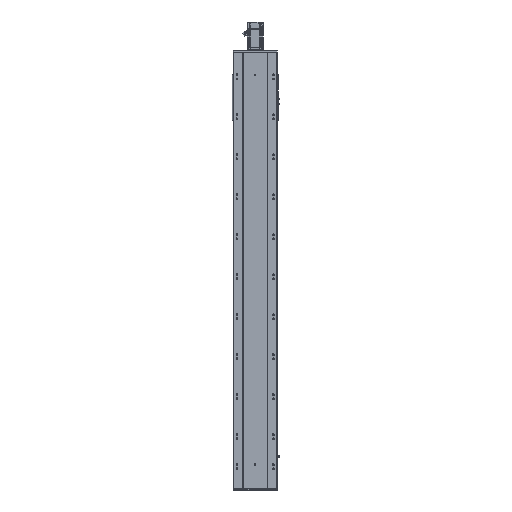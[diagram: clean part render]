
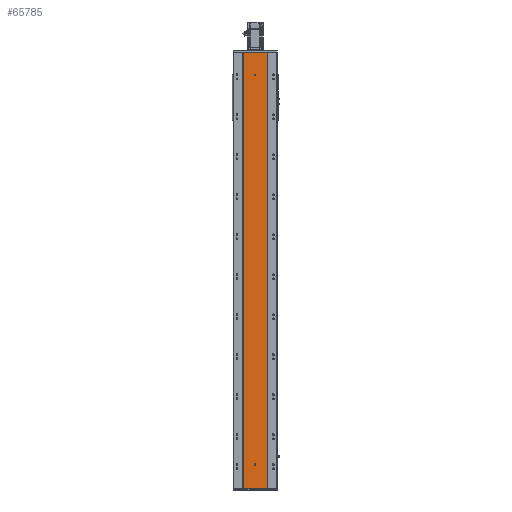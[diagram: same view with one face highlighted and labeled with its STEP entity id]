
A CAD part, front view. The second image highlights one B-rep face of the part: STEP entity #65785.
In plain terms, the highlighted planar face has unit normal (0, -1, 0).
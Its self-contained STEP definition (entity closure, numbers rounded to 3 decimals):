
#1428 = DIRECTION ( 'NONE',  ( 0., 0., 1. ) ) ;
#1861 = VECTOR ( 'NONE', #75392, 1000. ) ;
#2997 = VERTEX_POINT ( 'NONE', #39646 ) ;
#3594 = DIRECTION ( 'NONE',  ( 0., -1., 0. ) ) ;
#3933 = ORIENTED_EDGE ( 'NONE', *, *, #15065, .T. ) ;
#6039 = CARTESIAN_POINT ( 'NONE',  ( 0., 0., 116.5 ) ) ;
#6227 = AXIS2_PLACEMENT_3D ( 'NONE', #15155, #9334, #57648 ) ;
#7191 = VERTEX_POINT ( 'NONE', #40193 ) ;
#8694 = VERTEX_POINT ( 'NONE', #42916 ) ;
#9132 = ORIENTED_EDGE ( 'NONE', *, *, #59147, .F. ) ;
#9334 = DIRECTION ( 'NONE',  ( 0., -1., 0. ) ) ;
#10621 = ORIENTED_EDGE ( 'NONE', *, *, #42103, .F. ) ;
#11654 = ORIENTED_EDGE ( 'NONE', *, *, #57369, .T. ) ;
#11755 = CARTESIAN_POINT ( 'NONE',  ( -4., 0., 119.5 ) ) ;
#12993 = VERTEX_POINT ( 'NONE', #11755 ) ;
#14307 = DIRECTION ( 'NONE',  ( 1., 0., 0. ) ) ;
#14402 = DIRECTION ( 'NONE',  ( 0., 0., -1. ) ) ;
#15065 = EDGE_CURVE ( 'NONE', #38851, #29884, #60746, .T. ) ;
#15155 = CARTESIAN_POINT ( 'NONE',  ( 0., 0., 2068. ) ) ;
#16479 = EDGE_LOOP ( 'NONE', ( #11654, #62007, #49797, #3933 ) ) ;
#16772 = VECTOR ( 'NONE', #66358, 1000. ) ;
#17611 = DIRECTION ( 'NONE',  ( 0., -1., 0. ) ) ;
#18144 = CARTESIAN_POINT ( 'NONE',  ( 60., 0., 0. ) ) ;
#19639 = ORIENTED_EDGE ( 'NONE', *, *, #37742, .F. ) ;
#21564 = AXIS2_PLACEMENT_3D ( 'NONE', #39901, #3594, #64361 ) ;
#22133 = LINE ( 'NONE', #57045, #43151 ) ;
#24092 = DIRECTION ( 'NONE',  ( 0., 0., -1. ) ) ;
#25673 = CARTESIAN_POINT ( 'NONE',  ( 0., 0., 2072. ) ) ;
#26613 = CARTESIAN_POINT ( 'NONE',  ( 60., 0., 2182. ) ) ;
#27474 = DIRECTION ( 'NONE',  ( 0., -1., 0. ) ) ;
#29884 = VERTEX_POINT ( 'NONE', #75748 ) ;
#31143 = DIRECTION ( 'NONE',  ( 0., 1., 0. ) ) ;
#31418 = DIRECTION ( 'NONE',  ( 0., 0., -1. ) ) ;
#33623 = VERTEX_POINT ( 'NONE', #53510 ) ;
#33784 = LINE ( 'NONE', #26613, #61371 ) ;
#33790 = CARTESIAN_POINT ( 'NONE',  ( 0., 0., 2064. ) ) ;
#34971 = FACE_OUTER_BOUND ( 'NONE', #16479, .T. ) ;
#36106 = CIRCLE ( 'NONE', #57826, 4. ) ;
#37494 = PLANE ( 'NONE',  #57805 ) ;
#37508 = DIRECTION ( 'NONE',  ( 0., -1., 0. ) ) ;
#37626 = VECTOR ( 'NONE', #24092, 1000. ) ;
#37742 = EDGE_CURVE ( 'NONE', #56493, #55944, #50904, .T. ) ;
#38851 = VERTEX_POINT ( 'NONE', #77438 ) ;
#39042 = CARTESIAN_POINT ( 'NONE',  ( 60., 0., 2182. ) ) ;
#39524 = LINE ( 'NONE', #42699, #37626 ) ;
#39646 = CARTESIAN_POINT ( 'NONE',  ( 4., 0., 116.5 ) ) ;
#39901 = CARTESIAN_POINT ( 'NONE',  ( 0., 0., 119.5 ) ) ;
#40161 = ORIENTED_EDGE ( 'NONE', *, *, #59883, .F. ) ;
#40193 = CARTESIAN_POINT ( 'NONE',  ( 4., 0., 119.5 ) ) ;
#41228 = VECTOR ( 'NONE', #14307, 1000. ) ;
#42103 = EDGE_CURVE ( 'NONE', #7191, #12993, #49071, .T. ) ;
#42699 = CARTESIAN_POINT ( 'NONE',  ( -4., 0., 116.5 ) ) ;
#42916 = CARTESIAN_POINT ( 'NONE',  ( 0., 0., 112.5 ) ) ;
#43151 = VECTOR ( 'NONE', #71648, 1000. ) ;
#45286 = CARTESIAN_POINT ( 'NONE',  ( 0., 0., 116.5 ) ) ;
#45414 = CARTESIAN_POINT ( 'NONE',  ( -60., 0., 2182. ) ) ;
#47867 = LINE ( 'NONE', #50434, #41228 ) ;
#48962 = CARTESIAN_POINT ( 'NONE',  ( -60., 0., 2182. ) ) ;
#49071 = CIRCLE ( 'NONE', #21564, 4. ) ;
#49797 = ORIENTED_EDGE ( 'NONE', *, *, #59013, .F. ) ;
#50434 = CARTESIAN_POINT ( 'NONE',  ( -60., 0., 2182. ) ) ;
#50904 = CIRCLE ( 'NONE', #6227, 4. ) ;
#50918 = CIRCLE ( 'NONE', #78277, 4. ) ;
#51161 = FACE_BOUND ( 'NONE', #63645, .T. ) ;
#51993 = EDGE_LOOP ( 'NONE', ( #19639, #68066 ) ) ;
#53510 = CARTESIAN_POINT ( 'NONE',  ( -4., 0., 116.5 ) ) ;
#53825 = LINE ( 'NONE', #71374, #16772 ) ;
#54047 = DIRECTION ( 'NONE',  ( 0., 0., -1. ) ) ;
#54438 = ORIENTED_EDGE ( 'NONE', *, *, #57991, .F. ) ;
#55119 = EDGE_CURVE ( 'NONE', #55944, #56493, #36106, .T. ) ;
#55944 = VERTEX_POINT ( 'NONE', #25673 ) ;
#56493 = VERTEX_POINT ( 'NONE', #33790 ) ;
#57045 = CARTESIAN_POINT ( 'NONE',  ( 4., 0., 116.5 ) ) ;
#57369 = EDGE_CURVE ( 'NONE', #29884, #72020, #53825, .T. ) ;
#57405 = ORIENTED_EDGE ( 'NONE', *, *, #57489, .F. ) ;
#57489 = EDGE_CURVE ( 'NONE', #12993, #33623, #39524, .T. ) ;
#57648 = DIRECTION ( 'NONE',  ( 0., 0., -1. ) ) ;
#57805 = AXIS2_PLACEMENT_3D ( 'NONE', #48962, #31143, #1428 ) ;
#57826 = AXIS2_PLACEMENT_3D ( 'NONE', #62480, #37508, #14402 ) ;
#57991 = EDGE_CURVE ( 'NONE', #33623, #8694, #50918, .T. ) ;
#59013 = EDGE_CURVE ( 'NONE', #38851, #61320, #47867, .T. ) ;
#59147 = EDGE_CURVE ( 'NONE', #2997, #7191, #22133, .T. ) ;
#59883 = EDGE_CURVE ( 'NONE', #8694, #2997, #66802, .T. ) ;
#60746 = LINE ( 'NONE', #45414, #1861 ) ;
#61320 = VERTEX_POINT ( 'NONE', #39042 ) ;
#61371 = VECTOR ( 'NONE', #31418, 1000. ) ;
#62007 = ORIENTED_EDGE ( 'NONE', *, *, #67349, .F. ) ;
#62480 = CARTESIAN_POINT ( 'NONE',  ( 0., 0., 2068. ) ) ;
#63094 = DIRECTION ( 'NONE',  ( 0., 0., -1. ) ) ;
#63645 = EDGE_LOOP ( 'NONE', ( #9132, #40161, #54438, #57405, #10621 ) ) ;
#64361 = DIRECTION ( 'NONE',  ( 0., 0., -1. ) ) ;
#64429 = FACE_BOUND ( 'NONE', #51993, .T. ) ;
#65785 = ADVANCED_FACE ( 'NONE', ( #64429, #51161, #34971 ), #37494, .F. ) ;
#66358 = DIRECTION ( 'NONE',  ( 1., 0., 0. ) ) ;
#66802 = CIRCLE ( 'NONE', #69213, 4. ) ;
#67349 = EDGE_CURVE ( 'NONE', #61320, #72020, #33784, .T. ) ;
#68066 = ORIENTED_EDGE ( 'NONE', *, *, #55119, .F. ) ;
#69213 = AXIS2_PLACEMENT_3D ( 'NONE', #6039, #17611, #54047 ) ;
#71374 = CARTESIAN_POINT ( 'NONE',  ( -60., 0., 0. ) ) ;
#71648 = DIRECTION ( 'NONE',  ( 0., 0., 1. ) ) ;
#72020 = VERTEX_POINT ( 'NONE', #18144 ) ;
#75392 = DIRECTION ( 'NONE',  ( 0., 0., -1. ) ) ;
#75748 = CARTESIAN_POINT ( 'NONE',  ( -60., 0., 0. ) ) ;
#77438 = CARTESIAN_POINT ( 'NONE',  ( -60., 0., 2182. ) ) ;
#78277 = AXIS2_PLACEMENT_3D ( 'NONE', #45286, #27474, #63094 ) ;
